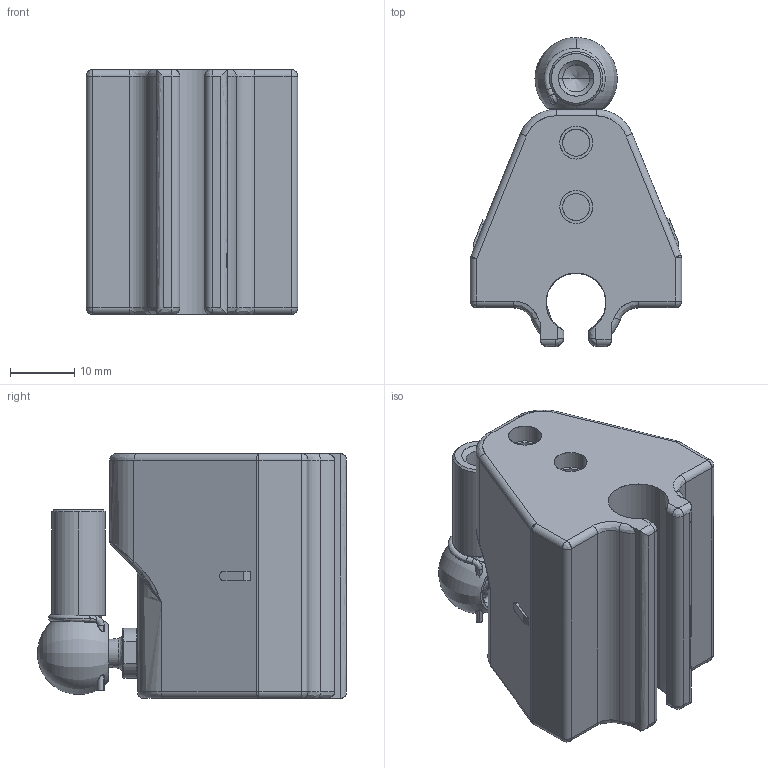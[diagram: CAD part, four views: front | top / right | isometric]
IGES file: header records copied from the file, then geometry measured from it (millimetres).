
Start section: SolidWorks IGES file using analytic representation for surfaces
Global section: file name: \\srv4gefran\dir-cat\Disegni Catalogo\Posizione\WPG\WPG-A-0100\3D\Solidworks 2019\ACCESSORI\PCUR222x.IGS; native system: SolidWorks 2019; preprocessor: SolidWorks 2019; author: Loda-w1; date: 181217.142113; units: millimetre
Bounding box: 32.8 x 47.98 x 38 mm (x, y, z)
Surface area: 10122.6 mm2 (no closed solid volume)
Topology: 0 solids, 0 shells, 226 faces, 2417 edges, 2404 vertices
Faces by surface type: bspline 124, revolution 102
